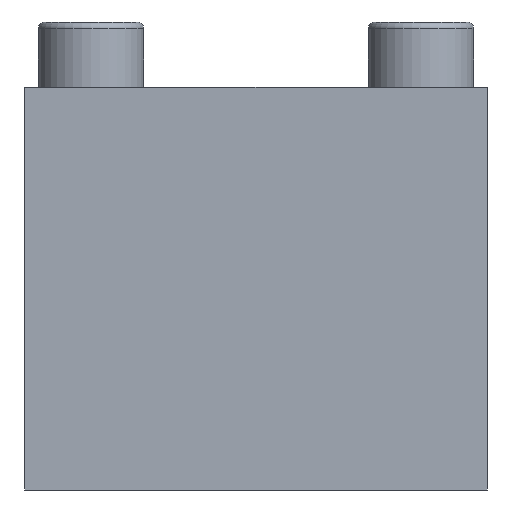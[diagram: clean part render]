
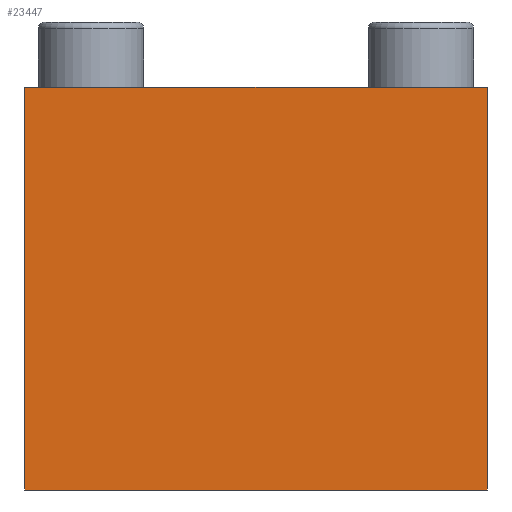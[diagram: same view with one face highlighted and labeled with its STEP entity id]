
A CAD part, front view. The second image highlights one B-rep face of the part: STEP entity #23447.
In plain terms, the highlighted planar face has unit normal (0, -1, 0).
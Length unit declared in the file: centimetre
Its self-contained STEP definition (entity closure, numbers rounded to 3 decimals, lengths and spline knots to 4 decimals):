
#1268=FACE_OUTER_BOUND('',#2624,.T.);
#2624=EDGE_LOOP('',(#15576,#15577,#15578,#15579));
#3938=LINE('',#30309,#6518);
#4604=LINE('',#32891,#7184);
#4607=LINE('',#32897,#7187);
#4608=LINE('',#32898,#7188);
#6518=VECTOR('',#25713,7.);
#7184=VECTOR('',#26423,6.1);
#7187=VECTOR('',#26428,6.1);
#7188=VECTOR('',#26429,7.);
#9098=VERTEX_POINT('',#30306);
#9099=VERTEX_POINT('',#30308);
#10025=VERTEX_POINT('',#32890);
#10027=VERTEX_POINT('',#32896);
#11324=EDGE_CURVE('',#9098,#9099,#3938,.T.);
#12251=EDGE_CURVE('',#9098,#10025,#4604,.T.);
#12254=EDGE_CURVE('',#9099,#10027,#4607,.T.);
#12255=EDGE_CURVE('',#10027,#10025,#4608,.T.);
#15576=ORIENTED_EDGE('',*,*,#12254,.F.);
#15577=ORIENTED_EDGE('',*,*,#11324,.F.);
#15578=ORIENTED_EDGE('',*,*,#12251,.T.);
#15579=ORIENTED_EDGE('',*,*,#12255,.F.);
#21285=PLANE('',#24724);
#23447=ADVANCED_FACE('',(#1268),#21285,.T.);
#24724=AXIS2_PLACEMENT_3D('',#32895,#26426,#26427);
#25713=DIRECTION('',(1.,0.,0.));
#26423=DIRECTION('',(0.,0.,-1.));
#26426=DIRECTION('center_axis',(0.,-1.,0.));
#26427=DIRECTION('ref_axis',(-1.,0.,0.));
#26428=DIRECTION('',(0.,0.,-1.));
#26429=DIRECTION('',(-1.,0.,0.));
#30306=CARTESIAN_POINT('',(-3.5,-15.,4.85));
#30308=CARTESIAN_POINT('',(3.5,-15.,4.85));
#30309=CARTESIAN_POINT('',(3.5,-15.,4.85));
#32890=CARTESIAN_POINT('',(-3.5,-15.,-1.25));
#32891=CARTESIAN_POINT('',(-3.5,-15.,0.));
#32895=CARTESIAN_POINT('Origin',(3.5,-15.,3.6));
#32896=CARTESIAN_POINT('',(3.5,-15.,-1.25));
#32897=CARTESIAN_POINT('',(3.5,-15.,0.));
#32898=CARTESIAN_POINT('',(3.5,-15.,-1.25));
